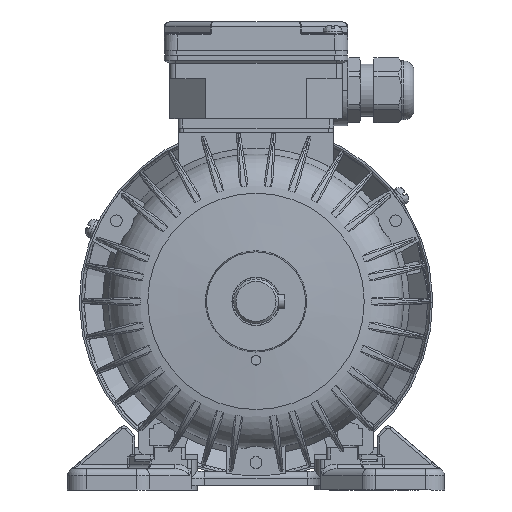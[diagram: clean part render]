
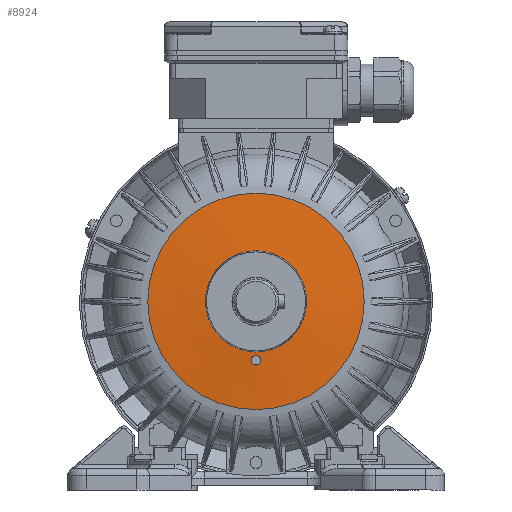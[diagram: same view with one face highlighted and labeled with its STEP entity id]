
A CAD part, left-side view. The second image highlights one B-rep face of the part: STEP entity #8924.
In plain terms, the highlighted conical face has half-angle 85.5 degrees and reference radius 21.472 mm.
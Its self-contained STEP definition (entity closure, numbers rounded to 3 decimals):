
#8924 = ADVANCED_FACE( '', ( #18013, #18014, #18015 ), #18016, .T. );
#18013 = FACE_OUTER_BOUND( '', #57205, .T. );
#18014 = FACE_BOUND( '', #57206, .T. );
#18015 = FACE_BOUND( '', #57207, .T. );
#18016 = CONICAL_SURFACE( '', #57208, 21.472, 1.492 );
#57205 = EDGE_LOOP( '', ( #85494 ) );
#57206 = EDGE_LOOP( '', ( #85495 ) );
#57207 = EDGE_LOOP( '', ( #85496 ) );
#57208 = AXIS2_PLACEMENT_3D( '', #85497, #85498, #85499 );
#85494 = ORIENTED_EDGE( '', *, *, #93489, .T. );
#85495 = ORIENTED_EDGE( '', *, *, #97384, .F. );
#85496 = ORIENTED_EDGE( '', *, *, #98770, .T. );
#85497 = CARTESIAN_POINT( '', ( 0., 6., 0. ) );
#85498 = DIRECTION( '', ( 0., 1., 0. ) );
#85499 = DIRECTION( '', ( 0., 0., 1. ) );
#93489 = EDGE_CURVE( '', #107636, #107636, #107637, .T. );
#97384 = EDGE_CURVE( '', #112947, #112947, #112948, .T. );
#98770 = EDGE_CURVE( '', #114488, #114488, #114489, .T. );
#107636 = VERTEX_POINT( '', #142613 );
#107637 = CIRCLE( '', #142614, 45.912 );
#112947 = VERTEX_POINT( '', #161780 );
#112948 = CIRCLE( '', #161781, 21.472 );
#114488 = VERTEX_POINT( '', #165429 );
#114489 = B_SPLINE_CURVE_WITH_KNOTS( '', 3, ( #165430, #165431, #165432, #165433, #165434, #165435, #165436, #165437, #165438, #165439, #165440, #165441, #165442, #165443, #165444, #165445, #165446, #165447, #165448, #165449, #165450, #165451, #165452, #165453, #165454, #165455, #165456, #165457, #165458, #165459, #165460, #165461, #165462, #165463, #165464, #165465, #165466, #165467, #165468, #165469, #165470, #165471, #165472, #165473, #165474, #165475, #165476, #165477, #165478, #165479, #165480, #165481, #165482, #165483, #165484, #165485 ), .UNSPECIFIED., .T., .F., ( 2, 2, 2, 2, 2, 2, 2, 2, 2, 2, 2, 2, 2, 2, 2, 2, 2, 2, 2, 2, 2, 2, 2, 2, 2, 2, 2, 2, 2, 2 ), ( -0.001, 0., 0., 0.001, 0.001, 0.002, 0.002, 0.003, 0.004, 0.004, 0.004, 0.005, 0.005, 0.005, 0.006, 0.006, 0.007, 0.007, 0.008, 0.008, 0.009, 0.009, 0.009, 0.01, 0.011, 0.011, 0.011, 0.012, 0.013, 0.013 ), .UNSPECIFIED. );
#142613 = CARTESIAN_POINT( '', ( 0., 7.923, -45.912 ) );
#142614 = AXIS2_PLACEMENT_3D( '', #172659, #172660, #172661 );
#161780 = CARTESIAN_POINT( '', ( 0., 6., -21.472 ) );
#161781 = AXIS2_PLACEMENT_3D( '', #176554, #176555, #176556 );
#165429 = CARTESIAN_POINT( '', ( -1.41, 6.392, -26.418 ) );
#165430 = CARTESIAN_POINT( '', ( -1.223, 6.406, -26.605 ) );
#165431 = CARTESIAN_POINT( '', ( -1.504, 6.385, -26.325 ) );
#165432 = CARTESIAN_POINT( '', ( -1.587, 6.378, -26.224 ) );
#165433 = CARTESIAN_POINT( '', ( -1.732, 6.362, -26.008 ) );
#165434 = CARTESIAN_POINT( '', ( -1.795, 6.353, -25.891 ) );
#165435 = CARTESIAN_POINT( '', ( -1.896, 6.334, -25.65 ) );
#165436 = CARTESIAN_POINT( '', ( -1.934, 6.325, -25.525 ) );
#165437 = CARTESIAN_POINT( '', ( -1.986, 6.305, -25.269 ) );
#165438 = CARTESIAN_POINT( '', ( -2., 6.295, -25.137 ) );
#165439 = CARTESIAN_POINT( '', ( -2.001, 6.264, -24.746 ) );
#165440 = CARTESIAN_POINT( '', ( -1.95, 6.243, -24.483 ) );
#165441 = CARTESIAN_POINT( '', ( -1.752, 6.204, -24.002 ) );
#165442 = CARTESIAN_POINT( '', ( -1.605, 6.186, -23.778 ) );
#165443 = CARTESIAN_POINT( '', ( -1.329, 6.163, -23.5 ) );
#165444 = CARTESIAN_POINT( '', ( -1.227, 6.155, -23.415 ) );
#165445 = CARTESIAN_POINT( '', ( -1.01, 6.143, -23.269 ) );
#165446 = CARTESIAN_POINT( '', ( -0.895, 6.138, -23.207 ) );
#165447 = CARTESIAN_POINT( '', ( -0.654, 6.129, -23.105 ) );
#165448 = CARTESIAN_POINT( '', ( -0.526, 6.126, -23.066 ) );
#165449 = CARTESIAN_POINT( '', ( -0.271, 6.121, -23.014 ) );
#165450 = CARTESIAN_POINT( '', ( -0.141, 6.12, -23.001 ) );
#165451 = CARTESIAN_POINT( '', ( 0.124, 6.12, -22.999 ) );
#165452 = CARTESIAN_POINT( '', ( 0.254, 6.121, -23.012 ) );
#165453 = CARTESIAN_POINT( '', ( 0.51, 6.126, -23.062 ) );
#165454 = CARTESIAN_POINT( '', ( 0.638, 6.129, -23.1 ) );
#165455 = CARTESIAN_POINT( '', ( 0.881, 6.137, -23.199 ) );
#165456 = CARTESIAN_POINT( '', ( 0.996, 6.142, -23.261 ) );
#165457 = CARTESIAN_POINT( '', ( 1.214, 6.155, -23.405 ) );
#165458 = CARTESIAN_POINT( '', ( 1.317, 6.162, -23.489 ) );
#165459 = CARTESIAN_POINT( '', ( 1.502, 6.177, -23.673 ) );
#165460 = CARTESIAN_POINT( '', ( 1.585, 6.185, -23.773 ) );
#165461 = CARTESIAN_POINT( '', ( 1.732, 6.203, -23.991 ) );
#165462 = CARTESIAN_POINT( '', ( 1.795, 6.213, -24.107 ) );
#165463 = CARTESIAN_POINT( '', ( 1.945, 6.242, -24.468 ) );
#165464 = CARTESIAN_POINT( '', ( 1.999, 6.263, -24.73 ) );
#165465 = CARTESIAN_POINT( '', ( 2.001, 6.293, -25.121 ) );
#165466 = CARTESIAN_POINT( '', ( 1.988, 6.304, -25.253 ) );
#165467 = CARTESIAN_POINT( '', ( 1.938, 6.324, -25.509 ) );
#165468 = CARTESIAN_POINT( '', ( 1.901, 6.333, -25.634 ) );
#165469 = CARTESIAN_POINT( '', ( 1.803, 6.352, -25.876 ) );
#165470 = CARTESIAN_POINT( '', ( 1.74, 6.36, -25.994 ) );
#165471 = CARTESIAN_POINT( '', ( 1.597, 6.377, -26.211 ) );
#165472 = CARTESIAN_POINT( '', ( 1.515, 6.384, -26.313 ) );
#165473 = CARTESIAN_POINT( '', ( 1.237, 6.405, -26.594 ) );
#165474 = CARTESIAN_POINT( '', ( 1.017, 6.416, -26.742 ) );
#165475 = CARTESIAN_POINT( '', ( 0.653, 6.427, -26.895 ) );
#165476 = CARTESIAN_POINT( '', ( 0.529, 6.43, -26.933 ) );
#165477 = CARTESIAN_POINT( '', ( 0.272, 6.434, -26.986 ) );
#165478 = CARTESIAN_POINT( '', ( 0.14, 6.435, -26.999 ) );
#165479 = CARTESIAN_POINT( '', ( -0.122, 6.435, -27.001 ) );
#165480 = CARTESIAN_POINT( '', ( -0.252, 6.434, -26.988 ) );
#165481 = CARTESIAN_POINT( '', ( -0.51, 6.431, -26.938 ) );
#165482 = CARTESIAN_POINT( '', ( -0.637, 6.428, -26.9 ) );
#165483 = CARTESIAN_POINT( '', ( -0.999, 6.417, -26.752 ) );
#165484 = CARTESIAN_POINT( '', ( -1.223, 6.406, -26.605 ) );
#165485 = CARTESIAN_POINT( '', ( -1.504, 6.385, -26.325 ) );
#172659 = CARTESIAN_POINT( '', ( 0., 7.923, 0. ) );
#172660 = DIRECTION( '', ( 0., -1., 0. ) );
#172661 = DIRECTION( '', ( 0., 0., -1. ) );
#176554 = CARTESIAN_POINT( '', ( 0., 6., 0. ) );
#176555 = DIRECTION( '', ( 0., -1., 0. ) );
#176556 = DIRECTION( '', ( 0., 0., -1. ) );
